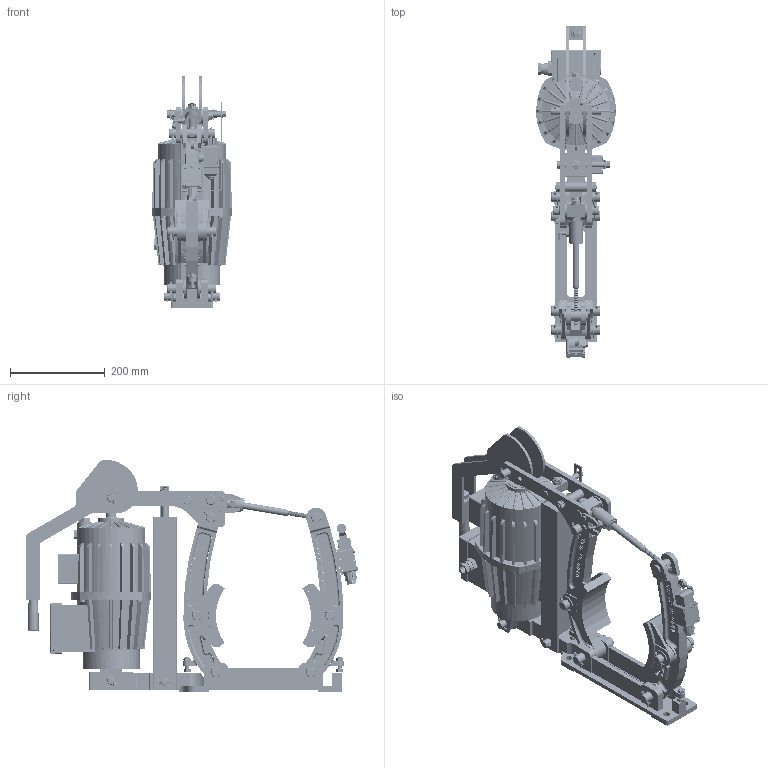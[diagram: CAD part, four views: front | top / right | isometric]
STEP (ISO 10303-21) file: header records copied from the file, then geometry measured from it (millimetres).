
FILE_DESCRIPTION((''),'2;1');
FILE_NAME('4459_204_502_E00003','2018-01-29T',('VORO'),(''),'CREO PARAMETRIC BY PTC INC, 2017170','CREO PARAMETRIC BY PTC INC, 2017170','');
FILE_SCHEMA(('CONFIG_CONTROL_DESIGN'));
Products named in the file (1): 4459_204_502_E00003
Bounding box: 168.01 x 699.03 x 487.49 mm (x, y, z)
Surface area: 1416516.8 mm2 (no closed solid volume)
Topology: 0 solids, 4638 shells, 5112 faces, 32478 edges, 31482 vertices
Faces by surface type: plane 2468, cylinder 1808, cone 513, torus 248, bspline 67, sphere 8
Entity records: 526527 total; most frequent: CARTESIAN_POINT 141275, PRESENTATION_STYLE_ASSIGNMENT 42212, DIRECTION 37563, STYLED_ITEM 37100, ORIENTED_EDGE 33457, CURVE_STYLE 32462, EDGE_CURVE 32462, VERTEX_POINT 31483
